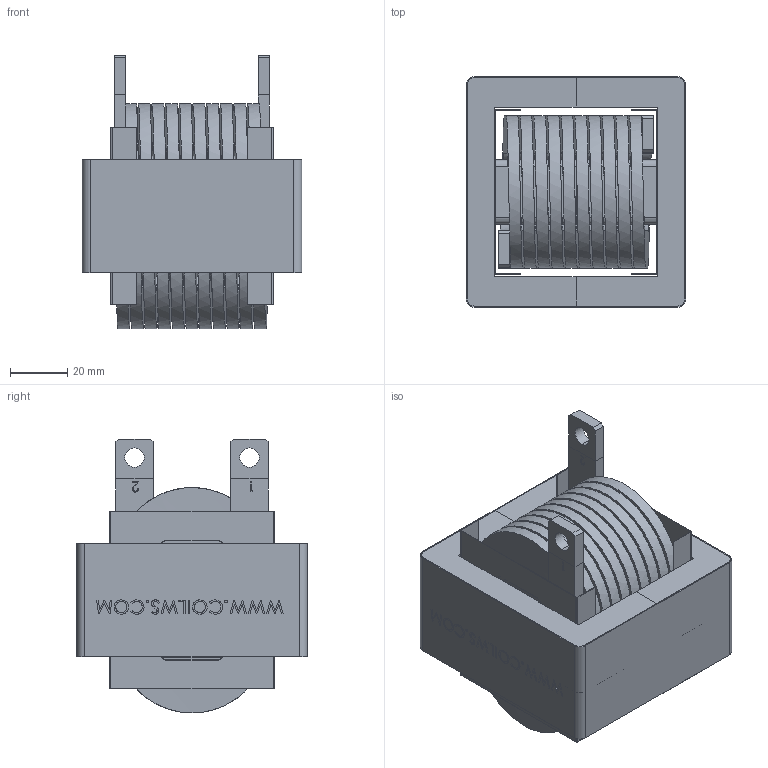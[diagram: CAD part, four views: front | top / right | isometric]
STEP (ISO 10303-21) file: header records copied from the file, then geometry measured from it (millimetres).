
FILE_DESCRIPTION (( 'STEP AP214' ), '1' );
FILE_NAME ('LCES38A62-500M-400AH.STEP', '2021-07-29T12:06:40', ( '' ), ( '' ), 'SwSTEP 2.0', 'SolidWorks 2015', '' );
FILE_SCHEMA (( 'AUTOMOTIVE_DESIGN' ));
Length unit declared in the file: millimetre
Products named in the file (6): SIDE MYLER; OUTER COVER; LCES38A62-500M-400AH; coil; CENTER MYLAR; CORE
Assembly tree (10 placements, depth 2):
  LCES38A62-500M-400AH
    CORE  x4
    SIDE MYLER  x2
    CENTER MYLAR  x2
    coil
    OUTER COVER
Bounding box: 76.97 x 80.76 x 96 mm (x, y, z)
Volume: 263143.2 mm3; surface area: 165125.7 mm2
Topology: 12 solids, 12 shells, 480 faces, 1294 edges, 852 vertices
Faces by surface type: plane 307, cylinder 108, bspline 65
Entity records: 23290 total; most frequent: CARTESIAN_POINT 12284, ORIENTED_EDGE 2128, DIRECTION 1440, EDGE_CURVE 1064, VERTEX_POINT 704, VECTOR 660, LINE 660, EDGE_LOOP 416
